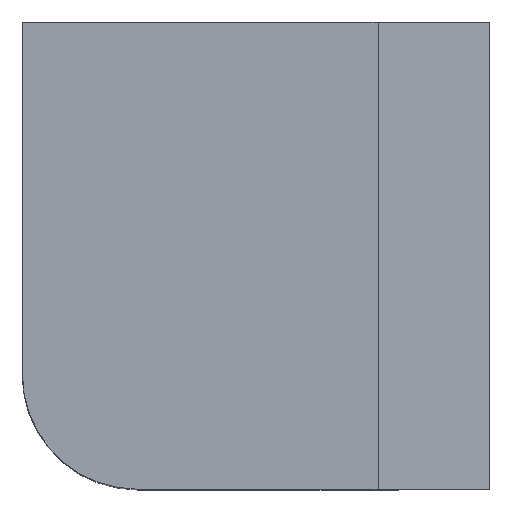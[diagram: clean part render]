
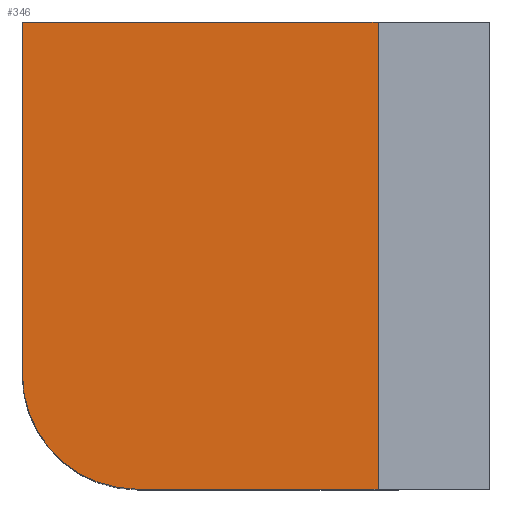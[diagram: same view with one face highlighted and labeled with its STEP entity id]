
A CAD part, top view. The second image highlights one B-rep face of the part: STEP entity #346.
In plain terms, the highlighted planar face has unit normal (0, 0, 1).
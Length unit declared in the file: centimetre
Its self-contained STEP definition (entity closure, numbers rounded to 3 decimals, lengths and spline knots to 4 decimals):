
#3 = EDGE_CURVE ( 'NONE', #454, #132, #33, .T. ) ;
#29 = CARTESIAN_POINT ( 'NONE',  ( 0., 0., 1000. ) ) ;
#33 = LINE ( 'NONE', #368, #255 ) ;
#35 = CARTESIAN_POINT ( 'NONE',  ( 761.1587, 1000., 1000. ) ) ;
#65 = EDGE_CURVE ( 'NONE', #132, #232, #310, .T. ) ;
#67 = DIRECTION ( 'NONE',  ( 0., -1., 0. ) ) ;
#95 = VECTOR ( 'NONE', #67, 100. ) ;
#108 = CARTESIAN_POINT ( 'NONE',  ( 245.9409, 245.9409, 1000. ) ) ;
#132 = VERTEX_POINT ( 'NONE', #35 ) ;
#144 = VECTOR ( 'NONE', #229, 100. ) ;
#148 = EDGE_CURVE ( 'NONE', #308, #292, #377, .T. ) ;
#159 = CARTESIAN_POINT ( 'NONE',  ( 0., 1000., 1000. ) ) ;
#174 = CARTESIAN_POINT ( 'NONE',  ( 245.9409, 0., 1000. ) ) ;
#178 = ORIENTED_EDGE ( 'NONE', *, *, #65, .T. ) ;
#186 = FACE_OUTER_BOUND ( 'NONE', #201, .T. ) ;
#188 = PLANE ( 'NONE',  #525 ) ;
#201 = EDGE_LOOP ( 'NONE', ( #486, #237, #178, #457, #536 ) ) ;
#229 = DIRECTION ( 'NONE',  ( -1., 0., 0. ) ) ;
#232 = VERTEX_POINT ( 'NONE', #248 ) ;
#237 = ORIENTED_EDGE ( 'NONE', *, *, #3, .T. ) ;
#248 = CARTESIAN_POINT ( 'NONE',  ( 0., 1000., 1000. ) ) ;
#250 = CARTESIAN_POINT ( 'NONE',  ( 0., 245.9409, 1000. ) ) ;
#255 = VECTOR ( 'NONE', #531, 100. ) ;
#266 = LINE ( 'NONE', #481, #95 ) ;
#292 = VERTEX_POINT ( 'NONE', #174 ) ;
#303 = CARTESIAN_POINT ( 'NONE',  ( 761.1587, 0., 1000. ) ) ;
#308 = VERTEX_POINT ( 'NONE', #250 ) ;
#310 = LINE ( 'NONE', #159, #144 ) ;
#322 = EDGE_CURVE ( 'NONE', #232, #308, #266, .T. ) ;
#328 = LINE ( 'NONE', #29, #393 ) ;
#346 = ADVANCED_FACE ( 'NONE', ( #186 ), #188, .T. ) ;
#348 = DIRECTION ( 'NONE',  ( 0., 0., 1. ) ) ;
#351 = DIRECTION ( 'NONE',  ( 0., 0., 1. ) ) ;
#368 = CARTESIAN_POINT ( 'NONE',  ( 761.1587, 1000., 1000. ) ) ;
#377 = CIRCLE ( 'NONE', #501, 245.9409 ) ;
#393 = VECTOR ( 'NONE', #451, 100. ) ;
#394 = DIRECTION ( 'NONE',  ( 1., 0., 0. ) ) ;
#403 = CARTESIAN_POINT ( 'NONE',  ( 0., 0., 1000. ) ) ;
#451 = DIRECTION ( 'NONE',  ( 1., 0., 0. ) ) ;
#454 = VERTEX_POINT ( 'NONE', #303 ) ;
#457 = ORIENTED_EDGE ( 'NONE', *, *, #322, .T. ) ;
#481 = CARTESIAN_POINT ( 'NONE',  ( 0., 1000., 1000. ) ) ;
#486 = ORIENTED_EDGE ( 'NONE', *, *, #492, .T. ) ;
#492 = EDGE_CURVE ( 'NONE', #292, #454, #328, .T. ) ;
#501 = AXIS2_PLACEMENT_3D ( 'NONE', #108, #351, #514 ) ;
#514 = DIRECTION ( 'NONE',  ( 1., 0., 0. ) ) ;
#525 = AXIS2_PLACEMENT_3D ( 'NONE', #403, #348, #394 ) ;
#531 = DIRECTION ( 'NONE',  ( 0., 1., 0. ) ) ;
#536 = ORIENTED_EDGE ( 'NONE', *, *, #148, .T. ) ;
